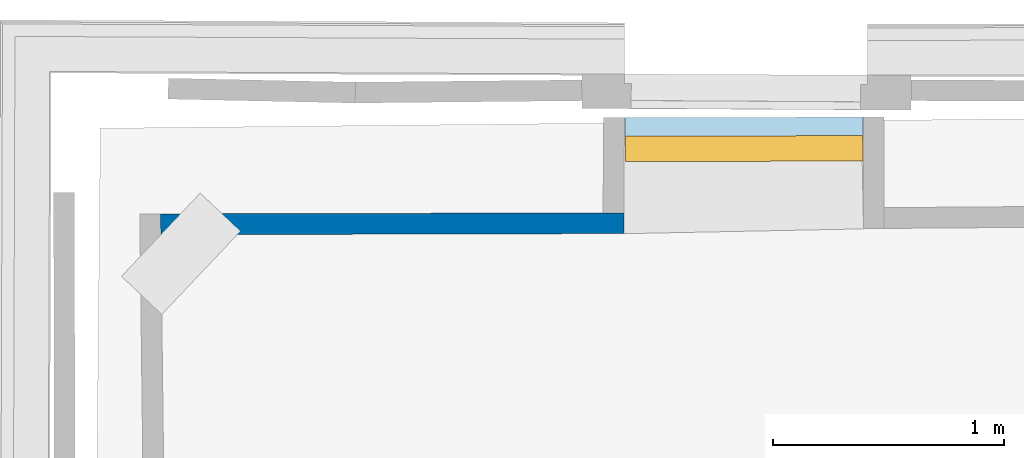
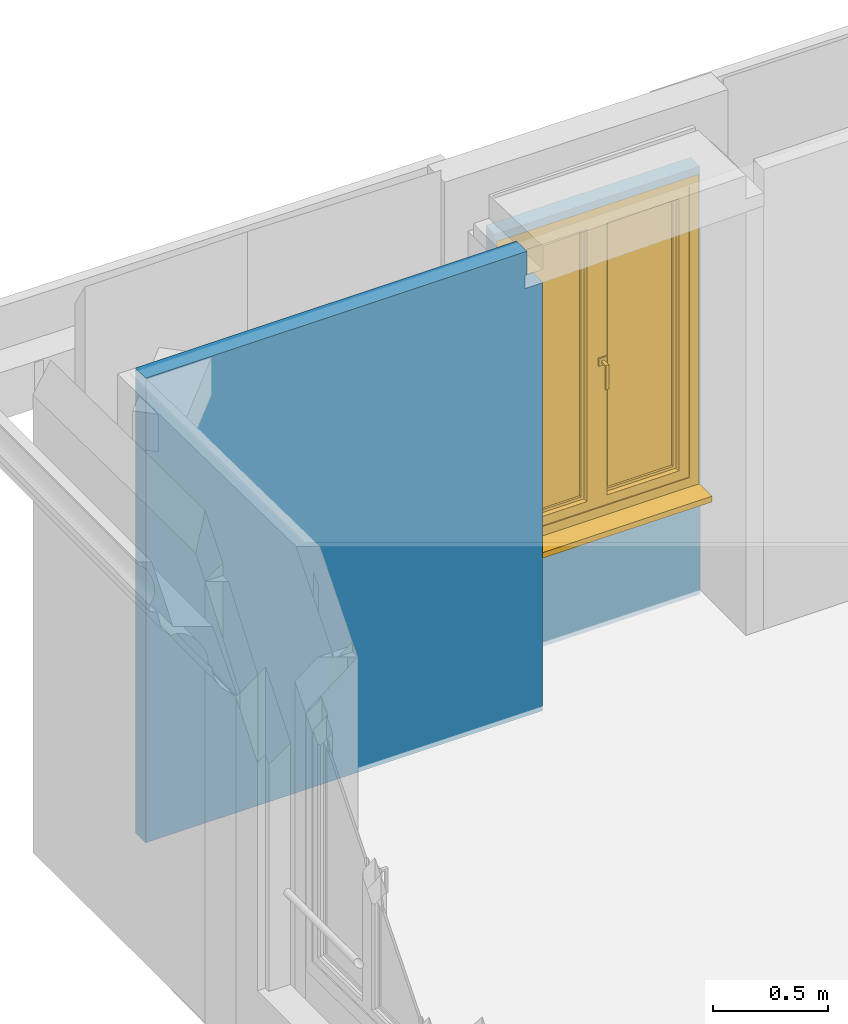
# One storey, part 57 of 72: 1 wall, 1 window, 1 opening, plus 1 element that does not belong to this part.
"""IFC2X3 building model written with IfcOpenShell, lengths in centimetres."""

from ifc_helpers import new_model, entity, si_unit, converted_unit, direction, frame, origin, origin_with_axes, place, context, subcontext, project, spatial, polyline, outline, extrude, faceted_brep, shape, material, material_list, layer, layer_set, layer_usage, type_object, element, fill, save


model = new_model("IFC2X3")

# Units and contexts
model_context = context("Model", 3, precision=0.0001, world=origin(), true_north=direction((0.225632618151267, 0.974212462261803, 0.0)))
body_context = subcontext(model_context, "Body", "Model", "MODEL_VIEW")
footprint_context = subcontext(model_context, "FootPrint", "Model", "MODEL_VIEW")
profile_context = subcontext(model_context, "Profile", "Model", "MODEL_VIEW")
ifc_project = project(units=[si_unit("LENGTHUNIT", "METRE", prefix="CENTI"), si_unit("AREAUNIT", "SQUARE_METRE", prefix="CENTI"), si_unit("VOLUMEUNIT", "CUBIC_METRE", prefix="CENTI"), converted_unit("PLANEANGLEUNIT", "DEGREE", entity("IfcRatioMeasure", 0.0174532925), si_unit("PLANEANGLEUNIT", "RADIAN"), dimensions=[0, 0, 0, 0, 0, 0, 0])], contexts=[model_context])

# Site, building, storey
site_placement = place(None, origin_with_axes())
site = spatial("IfcSite", under=ifc_project, at=site_placement, Name="Default Site", CompositionType="ELEMENT")
building_placement = place(site_placement, origin_with_axes())
building = spatial("IfcBuilding", under=site, at=building_placement, Name="Default Building", CompositionType="ELEMENT")
storey_placement = place(building_placement, frame((0.0, 0.0, 853.910374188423), z_axis=(0.0, 0.0, 1.0), x_axis=(1.0, 0.0, 0.0)))
storey = spatial("IfcBuildingStorey", under=building, at=storey_placement, Name="Niveau 2", CompositionType="ELEMENT", Elevation=853.910374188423)

# Wall
ifc_material_1 = material(Name="<aucun>")
ifc_layer_1 = layer(ifc_material_1, 9.0)
ifc_layer_set_1 = layer_set([ifc_layer_1], Name="default")
ifc_layer_usage_1 = layer_usage(ifc_layer_set_1, "AXIS2", "POSITIVE", -4.5)
wall_type_1 = type_object("IfcWallType", Name="default 90", PredefinedType="NOTDEFINED", material=ifc_layer_set_1)
wall_1_placement = place(storey_placement, frame((-1210.83799431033, 698.441416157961, 1.4210854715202e-12), z_axis=(0.0, 0.0, 1.0), x_axis=(0.999997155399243, 0.00238520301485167, 0.0)))
element("IfcWall", 1, at=wall_1_placement, inside=storey, type_object=wall_type_1, material=ifc_layer_usage_1, Name="Enveloppe 172689", context=body_context, shape_type="Brep", body=[
    faceted_brep([(191.288171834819, 4.49999100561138, 224.999976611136), (200.288403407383, 4.49999100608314, 224.999976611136), (200.288403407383, 4.49999100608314, -2.33888638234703e-05), (191.288171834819, 4.49999100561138, -2.33888638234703e-05), (187.999893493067, 4.49999100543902, -2.33888638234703e-05), (187.999893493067, 4.49999100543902, 224.999976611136), (191.188226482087, 4.49999100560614, 224.999976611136), (187.999893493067, 4.50001408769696, -2.33888638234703e-05), (181.496102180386, 4.50001408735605, -2.33888638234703e-05), (-0.0886771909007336, 4.50001407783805, -2.33888638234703e-05), (-0.0886771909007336, 4.50001407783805, 208.999991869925), (-0.0886771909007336, 4.50001407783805, 224.999976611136), (187.999893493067, 4.50001408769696, 224.999976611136), (191.188226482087, 4.49999097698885, 224.999976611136), (187.999893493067, 4.49999097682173, 224.999976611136), (-0.0886771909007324, 4.49999096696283, 224.999976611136), (-0.0886771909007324, 4.49999096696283, 236.999965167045), (191.188226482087, 4.49999097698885, 236.999965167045), (191.188226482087, 4.49999097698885, 235.000014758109), (191.188226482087, 4.49999097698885, 234.007525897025), (191.188226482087, 4.49999097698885, 228.000045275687), (200.288403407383, 4.49998129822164, 224.999976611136), (191.288171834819, 4.49998129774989, 224.999976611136), (191.288171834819, 4.49998129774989, 228.000045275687), (200.288403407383, 4.49998129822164, 228.000045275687), (191.188226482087, 4.49999100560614, 228.000045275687), (191.288171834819, 4.49999100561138, 228.000045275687), (192.223061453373, 4.50000223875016, 235.000014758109), (191.288171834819, 4.50000223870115, 235.000014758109), (191.288171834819, 4.50000223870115, 236.999965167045), (192.223061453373, 4.50000223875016, 236.999965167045), (191.288171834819, 4.49999100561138, 235.000014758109), (191.188226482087, 4.49999100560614, 235.000014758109), (191.188226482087, 4.49999100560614, 236.999965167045), (191.288171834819, 4.49999100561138, 236.999965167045), (191.188226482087, 4.50000223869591, 236.999965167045), (-0.088677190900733, 4.50000222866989, 236.999965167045), (-0.088677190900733, 4.50000222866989, 247.500014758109), (192.223061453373, 4.50000223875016, 247.500014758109), (3.72506813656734, -4.49999471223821, -2.33888638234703e-05), (200.223067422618, -4.49999470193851, -2.33888638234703e-05), (200.223067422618, -4.49999470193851, 224.999976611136), (191.188217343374, -4.49999470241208, 224.999976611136), (3.72506813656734, -4.49999471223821, 224.999976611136), (5.69819622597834e-06, -4.49997885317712, -2.33888638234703e-05), (3.72506813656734, -4.49997885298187, -2.33888638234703e-05), (3.72506813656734, -4.49997885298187, 224.999976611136), (5.69819622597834e-06, -4.49997885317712, 224.999976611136), (5.69819622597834e-06, -4.49997885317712, 208.999991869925), (191.188217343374, -4.49997884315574, 224.999976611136), (191.188217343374, -4.49997884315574, 228.000045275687), (191.188217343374, -4.49997884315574, 234.007525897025), (191.188217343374, -4.49997884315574, 235.000014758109), (191.188217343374, -4.49997884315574, 236.999965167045), (5.69819622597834e-06, -4.49997885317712, 236.999965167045), (191.188217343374, -4.50000217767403, 224.999976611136), (200.223067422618, -4.50000217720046, 224.999976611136), (200.223067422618, -4.50000217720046, 228.000045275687), (191.188217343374, -4.50000217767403, 228.000045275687), (191.188217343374, -4.50000217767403, 235.000014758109), (192.22305231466, -4.50000217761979, 235.000014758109), (192.22305231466, -4.50000217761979, 236.999965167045), (191.188217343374, -4.50000217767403, 236.999965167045), (192.22305231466, -4.4999788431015, 236.999965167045), (192.22305231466, -4.4999788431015, 247.500014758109), (5.69819622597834e-06, -4.49997885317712, 247.500014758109), (200.223067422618, -4.49999908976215, -2.33888638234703e-05), (3.72223600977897, -4.08804716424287, -2.33888638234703e-05), (6.02854872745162, -4.07313951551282, -2.33888638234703e-05), (180.877147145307, -2.94466111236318, -2.33888638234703e-05), (187.503397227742, -2.90186265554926, -2.33888638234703e-05), (200.288403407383, 4.49998129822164, -2.33888638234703e-05), (-0.0037452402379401, -4.11339692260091, -2.33888638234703e-05), (-0.0886771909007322, 4.49998743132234, -2.33888638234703e-05), (-0.00374216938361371, -4.11210946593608, 224.999976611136), (-0.0886790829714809, 4.49998741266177, 224.999976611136), (-0.0886790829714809, 4.49998741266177, 208.999991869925), (-0.00374216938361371, -4.11210946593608, 208.999991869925), (-0.0886790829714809, 4.49998741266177, -2.33888638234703e-05), (-0.00374216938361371, -4.11210946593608, -2.33888638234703e-05), (-0.00380696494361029, -4.11339753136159, 224.999976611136), (-0.00380696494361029, -4.11339753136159, 208.999991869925), (-0.00380696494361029, -4.11339753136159, -2.33888638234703e-05), (-0.0886771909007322, 4.49998743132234, 224.999976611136), (8.50818508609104e-05, -4.49997807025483, 224.999976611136), (8.50818508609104e-05, -4.49997807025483, 236.999965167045), (-0.0886771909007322, 4.49998743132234, 236.999965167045), (191.188226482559, -4.50000217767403, 235.000014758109), (191.188226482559, -4.50000217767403, 234.007525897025), (191.188226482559, -4.50000217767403, 228.000045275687), (200.223067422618, -4.49999908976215, 228.000045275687), (192.22305231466, -4.49999091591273, 235.000014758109), (192.223052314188, 4.50000223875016, 235.000014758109), (192.223052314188, 4.50000223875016, 236.999965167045), (192.22305231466, -4.49999091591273, 236.999965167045), (-0.0886771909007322, 4.49998743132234, 247.500014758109), (192.22305231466, -4.49999091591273, 247.500014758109), (8.50818508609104e-05, -4.49997807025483, 247.500014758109), (192.223052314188, 4.50000223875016, 247.500014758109), (200.288454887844, 4.49998092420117, -2.33888638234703e-05), (200.288454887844, 4.49998092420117, 224.999976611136), (200.223067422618, -4.49999908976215, 224.999976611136), (200.288454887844, 4.49998092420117, 228.000045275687)], [[[0, 1, 2, 3]], [[3, 4, 5, 6, 0]], [[7, 8, 9, 10, 11, 12]], [[13, 14, 15, 16, 17, 18, 19, 20]], [[21, 22, 23, 24]], [[0, 6, 25, 26]], [[27, 28, 29, 30]], [[31, 32, 33, 34]], [[30, 29, 35, 36, 37, 38]], [[39, 40, 41, 42, 43]], [[44, 45, 46, 47, 48]], [[47, 46, 49, 50, 51, 52, 53, 54]], [[55, 56, 57, 58]], [[59, 60, 61, 62]], [[54, 53, 63, 64, 65]], [[66, 39, 67, 68, 69, 70, 7, 3, 71]], [[70, 67, 72, 73, 7]], [[74, 75, 76, 77]], [[77, 76, 78, 79]], [[67, 39, 44, 72]], [[47, 80, 81, 48]], [[48, 81, 82, 44]], [[83, 84, 85, 86]], [[18, 87, 88, 19]], [[19, 88, 89, 20]], [[58, 90, 24, 26, 20]], [[59, 18, 31, 27, 91]], [[91, 92, 93, 94]], [[38, 95, 65, 96]], [[86, 85, 97, 95]], [[94, 93, 98, 96]], [[66, 99, 100, 101]], [[101, 100, 102, 90]]]),
])

# Wall, opening, window
ifc_layer_2 = layer(ifc_material_1, 8.0)
ifc_layer_set_2 = layer_set([ifc_layer_2], Name="default")
ifc_layer_usage_2 = layer_usage(ifc_layer_set_2, "AXIS2", "POSITIVE", -4.0)
wall_type_2 = type_object("IfcWallType", Name="default 80", PredefinedType="NOTDEFINED", material=ifc_layer_set_2)
wall_2_placement = place(storey_placement, frame((-1010.4089299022, 740.553588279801, 1.4210854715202e-12), z_axis=(0.0, 0.0, 1.0), x_axis=(0.999997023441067, 0.00243989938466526, 0.0)))
wall_2 = element("IfcWallStandardCase", 2, at=wall_2_placement, inside=storey, type_object=wall_type_2, material=ifc_layer_usage_2, Name="Enveloppe 172745", context=body_context, shape_type="SweptSolid", body=[
    extrude(outline(polyline([(-7.54139151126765e-07, -4.0), (103.400349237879, -4.00000000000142), (103.430184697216, 3.99999999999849), (0.0585591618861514, 4.00000000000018), (-7.54139151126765e-07, -4.0)])), frame((0.0, 0.0, -5.32907051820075e-13), z_axis=(0.0, 0.0, 1.0), x_axis=(1.0, 0.0, 0.0)), (0.0, 0.0, 1.0), 228.0),
])
opening_placement = place(wall_2_placement, frame((0.464590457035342, 1.13686837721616e-13, 58.9999999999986), z_axis=(0.0, 0.0, 1.0), x_axis=(-1.0, 1.44970840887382e-14, 0.0)))
cartesian_point_1 = entity("IfcCartesianPoint", [0.0, 0.0, 165.0])
cartesian_point_2 = entity("IfcCartesianPoint", [-102.647776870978, -4.0])
opening = element("IfcOpeningElement", 3, at=opening_placement, cuts=wall_2, Name="4294966524_11", ObjectType="Opening", shapes=[
    shape(body_context, "Body", "SweptSolid", [extrude(outline(polyline([(0.0, 165.0), (0.0, -2.99999999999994), (102.647776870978, -2.99999999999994), (102.647776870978, 165.0), (0.0, 165.0)])), frame((0.0, -14.0, 0.0), z_axis=(0.0, 1.0, 0.0), x_axis=(-1.0, 0.0, 0.0)), (0.0, 0.0, 1.0), 28.0)]),
    shape(profile_context, "Profile", "GeometricCurveSet", [entity("IfcGeometricCurveSet", [entity("IfcPolyline", [cartesian_point_1, entity("IfcCartesianPoint", [0.0, 0.0, 0.0]), entity("IfcCartesianPoint", [-102.647776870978, 0.0, 0.0]), entity("IfcCartesianPoint", [-102.647776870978, 0.0, 165.0]), cartesian_point_1])])]),
    shape(footprint_context, "FootPrint", "GeometricCurveSet", [entity("IfcGeometricCurveSet", [entity("IfcPolyline", [cartesian_point_2, entity("IfcCartesianPoint", [0.0, -3.99999999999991]), entity("IfcCartesianPoint", [-1.77635683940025e-13, 4.0]), entity("IfcCartesianPoint", [-102.647776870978, 4.0]), cartesian_point_2])])]),
])
ifc_material_2 = material(Name="Transparent")
ifc_material_3 = material(Name="Bleu france")
ifc_material_4 = material(Name="Brèche oniciata")
ifc_material_5 = material(Name="Aluminium satiné")
ifc_material_list = material_list([ifc_material_2, ifc_material_3, ifc_material_4, ifc_material_5])
window_style = type_object("IfcWindowStyle", Name="FN[R] 2VB[1V] MM", ConstructionType="NOTDEFINED", OperationType="DOUBLE_PANEL_VERTICAL", ParameterTakesPrecedence=True, Sizeable=False, material=ifc_material_list)
window_placement = place(opening_placement, frame((-102.647776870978, -4.0, -1.4210854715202e-14), z_axis=(0.0, 0.0, 1.0), x_axis=(1.0, 0.0, 0.0)))
window = element("IfcWindow", 4, at=window_placement, inside=storey, type_object=window_style, material=ifc_material_list, Name="Fenêtre 173266", OverallHeight=165.0, OverallWidth=102.647776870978, context=body_context, shape_type="Brep", body=[
    faceted_brep([(4.20870685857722e-05, 1.48088427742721e-05, -8.13007332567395e-06), (102.647747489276, -3.88960863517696e-07, -8.13007332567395e-06), (102.647811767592, 8.00001563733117, -8.13007332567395e-06), (102.647757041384, 19.0000141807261, -8.13007332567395e-06), (-4.38443146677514e-05, 18.9999819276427, -8.13007332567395e-06), (1.08818936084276e-05, 7.99998338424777, -8.13007332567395e-06), (1.08818936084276e-05, 7.99998338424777, -2.99998142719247), (-4.38443146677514e-05, 18.9999819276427, -2.99998142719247), (102.647757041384, 19.0000141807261, -2.99998142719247), (102.647811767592, 8.00001563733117, -2.99998142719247), (102.647747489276, -3.88960863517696e-07, -2.99998142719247), (4.20870685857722e-05, 1.48088427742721e-05, -2.99998142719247), (1.08819553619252e-05, 18.9999819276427, -8.13007332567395e-06), (1.08819553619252e-05, 18.9999819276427, -2.99998142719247), (102.647757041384, 18.9999819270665, -8.13007332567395e-06), (102.647757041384, 18.9999819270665, -2.99998142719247), (102.647757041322, 8.00001563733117, -8.13007332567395e-06), (102.647757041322, 8.00001563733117, -2.99998142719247), (102.647811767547, -3.88960863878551e-07, -8.13007332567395e-06), (102.647811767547, -3.88960863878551e-07, -2.99998142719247), (4.20870685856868e-05, -3.88384603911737e-07, -8.13007332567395e-06), (4.20870685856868e-05, -3.88384603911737e-07, -2.99998142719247), (4.20871134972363e-05, 7.99998338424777, -8.13007332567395e-06), (4.20871134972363e-05, 7.99998338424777, -2.99998142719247)], [[[0, 1, 2, 3, 4, 5]], [[6, 7, 8, 9, 10, 11]], [[5, 12, 13, 6]], [[4, 14, 15, 7]], [[3, 16, 17, 8]], [[2, 18, 19, 9]], [[1, 20, 21, 10]], [[0, 22, 23, 11]]]),
    faceted_brep([(97.6477779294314, 8.94068818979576e-08, 160.000002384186), (97.6477779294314, 7.99999991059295, 160.000002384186), (97.6477779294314, 7.99999991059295, 5.00000007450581), (97.6477779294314, 8.94068818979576e-08, 5.00000007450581), (102.647779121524, 7.99999991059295, 164.999997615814), (102.647779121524, 7.99999991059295, 0.0), (102.647779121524, 8.94068818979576e-08, 164.999997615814), (102.647779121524, 8.94068818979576e-08, 1.49405478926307e-30), (102.647779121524, 7.99999991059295, 1.49405478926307e-30), (97.6477779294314, 8.94068819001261e-08, 160.000002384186), (97.6477779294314, 8.94068819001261e-08, 5.00000007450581), (102.647779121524, 8.94068818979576e-08, 0.0), (4.99999894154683, 7.99999991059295, 5.0000000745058), (4.99999894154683, 8.94068818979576e-08, 5.0000000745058), (-2.25054606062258e-06, 7.99999991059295, 0.0), (4.99999894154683, 7.99999991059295, 5.00000007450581), (-2.25054606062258e-06, 8.94068818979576e-08, 0.0), (4.99999894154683, 8.94068819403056e-08, 5.00000007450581), (-2.25054606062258e-06, 8.9406881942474e-08, 0.0), (4.99999894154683, 8.94068818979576e-08, 5.00000007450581), (4.99999894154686, 7.99999991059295, 160.000002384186), (4.99999894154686, 8.94068818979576e-08, 160.000002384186), (-2.25054606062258e-06, 7.99999991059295, 164.999997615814), (4.99999894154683, 7.99999991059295, 160.000002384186), (-2.25054606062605e-06, 8.94068818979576e-08, 0.0), (-2.25054606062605e-06, 8.94068818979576e-08, 164.999997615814), (4.99999894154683, 8.94068818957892e-08, 5.00000007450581), (4.99999894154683, 8.94068818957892e-08, 160.000002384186), (-2.25054606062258e-06, 8.94068818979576e-08, 164.999997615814), (4.99999894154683, 8.94068818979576e-08, 160.000002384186), (97.6477779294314, 8.94068818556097e-08, 160.000002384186), (102.647779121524, 8.94068818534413e-08, 164.999997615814)], [[[0, 1, 2, 3]], [[1, 4, 5, 2]], [[4, 6, 7, 8]], [[6, 9, 10, 11]], [[3, 2, 12, 13]], [[2, 5, 14, 15]], [[5, 11, 16, 14]], [[11, 10, 17, 18]], [[19, 15, 20, 21]], [[15, 14, 22, 23]], [[14, 24, 25, 22]], [[16, 26, 27, 28]], [[29, 23, 1, 0]], [[23, 22, 4, 1]], [[22, 28, 6, 4]], [[28, 27, 30, 31]]]),
    faceted_brep([(93.6477757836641, 0.499999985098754, 155.999994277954), (92.6477762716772, 1.49999949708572, 154.999995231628), (92.6477762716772, 1.49999949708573, 10.0000001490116), (93.6477757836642, 0.499999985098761, 9.00000035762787), (92.6477767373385, 1.49999996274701, 154.999995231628), (92.6477767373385, 7.50000001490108, 154.999995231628), (92.6477767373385, 7.50000001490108, 10.0000001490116), (92.6477767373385, 1.49999996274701, 10.0000001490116), (97.6477779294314, 7.50000001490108, 160.000002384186), (97.6477779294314, 7.50000001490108, 5.00000007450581), (97.6477779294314, 0.499999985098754, 160.000002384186), (97.6477779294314, 0.499999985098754, 5.00000007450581), (93.6477757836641, 0.499999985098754, 9.00000035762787), (92.6477767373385, 1.49999986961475, 10.0000002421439), (56.3238885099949, 1.49999986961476, 10.0000002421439), (55.3238883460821, 0.499999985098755, 9.00000035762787), (56.3238885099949, 7.50000001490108, 10.0000001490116), (56.3238885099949, 1.49999996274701, 10.0000001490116), (51.3238884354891, 7.50000001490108, 5.00000007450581), (51.3238884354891, 0.499999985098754, 5.00000007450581), (55.3238883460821, 0.499999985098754, 9.00000035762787), (56.3238884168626, 1.50000005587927, 10.0000001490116), (56.3238884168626, 1.50000005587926, 154.999995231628), (55.3238883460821, 0.499999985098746, 155.999994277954), (56.3238885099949, 7.50000001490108, 154.999995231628), (56.3238885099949, 1.49999996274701, 154.999995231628), (51.3238884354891, 7.50000001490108, 160.000002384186), (51.3238884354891, 0.499999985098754, 160.000002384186), (55.3238883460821, 0.499999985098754, 155.999994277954), (56.3238885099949, 1.49999949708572, 154.999994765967), (92.6477767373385, 1.49999949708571, 154.999994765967), (93.6477757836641, 0.499999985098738, 155.999994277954)], [[[0, 1, 2, 3]], [[4, 5, 6, 7]], [[5, 8, 9, 6]], [[8, 10, 11, 9]], [[10, 0, 12, 11]], [[12, 13, 14, 15]], [[7, 6, 16, 17]], [[6, 9, 18, 16]], [[9, 11, 19, 18]], [[11, 12, 20, 19]], [[20, 21, 22, 23]], [[17, 16, 24, 25]], [[16, 18, 26, 24]], [[18, 19, 27, 26]], [[19, 20, 28, 27]], [[28, 29, 30, 31]], [[25, 24, 5, 4]], [[24, 26, 8, 5]], [[26, 27, 10, 8]], [[27, 28, 0, 10]]]),
    faceted_brep([(91.1477781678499, 3.00000002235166, 153.49999666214), (90.6477769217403, 3.50000126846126, 152.999997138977), (90.6477769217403, 3.50000126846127, 11.9999997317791), (91.1477781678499, 3.00000002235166, 11.5000002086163), (90.6477756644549, 3.50000001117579, 152.999997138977), (90.6477756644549, 4.49999998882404, 152.999997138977), (90.6477756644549, 4.49999998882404, 11.9999997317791), (90.6477756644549, 3.50000001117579, 11.9999997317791), (91.1477769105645, 5.00000123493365, 153.49999666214), (91.1477769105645, 5.00000123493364, 11.5000002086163), (91.1477781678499, 4.99999997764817, 153.49999666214), (92.6477767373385, 4.99999997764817, 154.999995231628), (92.6477767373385, 4.99999997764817, 10.0000001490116), (91.1477781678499, 4.99999997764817, 11.5000002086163), (92.6477767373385, 3.00000002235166, 154.999995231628), (92.6477767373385, 3.00000002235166, 10.0000001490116), (90.6477756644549, 3.49999977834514, 11.9999999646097), (58.3238884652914, 3.49999977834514, 11.9999999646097), (57.8238881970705, 3.00000002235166, 11.5000002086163), (58.3238884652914, 4.49999998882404, 11.9999997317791), (58.3238884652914, 3.50000001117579, 11.9999997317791), (91.1477781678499, 4.99999974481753, 11.4999999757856), (57.8238881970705, 4.99999974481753, 11.4999999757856), (56.3238885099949, 4.99999997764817, 10.0000001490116), (57.8238881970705, 4.99999997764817, 11.5000002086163), (56.3238885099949, 3.00000002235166, 10.0000001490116), (58.323888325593, 3.50000015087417, 11.9999997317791), (58.323888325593, 3.50000015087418, 152.999997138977), (57.8238881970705, 3.00000002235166, 153.49999666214), (58.3238884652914, 4.49999998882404, 152.999997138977), (58.3238884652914, 3.50000001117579, 152.999997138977), (57.8238883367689, 5.00000011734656, 11.5000002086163), (57.8238883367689, 5.00000011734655, 153.49999666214), (58.3238884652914, 4.49999998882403, 152.999997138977), (56.3238885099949, 4.99999997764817, 154.999995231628), (57.8238881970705, 4.99999997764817, 153.49999666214), (56.3238885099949, 3.00000002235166, 154.999995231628), (58.3238884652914, 3.49999977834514, 152.999996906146), (90.6477756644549, 3.49999977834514, 152.999996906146), (57.8238881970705, 4.99999974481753, 153.499996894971), (91.1477781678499, 4.99999974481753, 153.499996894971)], [[[0, 1, 2, 3]], [[4, 5, 6, 7]], [[5, 8, 9, 6]], [[10, 11, 12, 13]], [[11, 14, 15, 12]], [[14, 0, 3, 15]], [[3, 16, 17, 18]], [[7, 6, 19, 20]], [[6, 21, 22, 19]], [[13, 12, 23, 24]], [[12, 15, 25, 23]], [[15, 3, 18, 25]], [[18, 26, 27, 28]], [[20, 19, 29, 30]], [[19, 31, 32, 33]], [[24, 23, 34, 35]], [[23, 25, 36, 34]], [[25, 18, 28, 36]], [[28, 37, 38, 0]], [[30, 29, 5, 4]], [[29, 39, 40, 5]], [[35, 34, 11, 10]], [[34, 36, 14, 11]], [[36, 28, 0, 14]]]),
    faceted_brep([(58.3238884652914, 3.50000001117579, 152.999997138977), (58.3238884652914, 3.50000001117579, 11.9999997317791), (90.6477756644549, 3.50000001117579, 11.9999997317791), (90.6477756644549, 3.50000001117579, 152.999997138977), (90.6477756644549, 4.49999998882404, 152.999997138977), (90.6477756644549, 4.49999998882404, 11.9999997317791), (58.3238884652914, 4.49999998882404, 11.9999997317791), (58.3238884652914, 4.49999998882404, 152.999997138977)], [[[0, 1, 2, 3]], [[4, 5, 6, 7]], [[3, 2, 5, 4]], [[2, 1, 6, 5]], [[1, 0, 7, 6]], [[0, 3, 4, 7]]]),
    faceted_brep([(47.3238885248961, 0.499999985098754, 155.999994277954), (46.3238884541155, 1.50000005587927, 154.999995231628), (46.3238884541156, 1.50000005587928, 10.0000001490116), (47.3238885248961, 0.499999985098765, 9.00000035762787), (46.3238883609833, 1.49999996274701, 154.999995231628), (46.3238883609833, 7.50000001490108, 154.999995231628), (46.3238883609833, 7.50000001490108, 10.0000001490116), (46.3238883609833, 1.49999996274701, 10.0000001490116), (51.3238884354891, 7.50000001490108, 160.000002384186), (51.3238884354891, 7.50000001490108, 5.00000007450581), (51.3238884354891, 0.499999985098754, 160.000002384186), (51.3238884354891, 0.499999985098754, 5.00000007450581), (47.3238885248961, 0.499999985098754, 9.00000035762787), (46.3238883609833, 1.49999986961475, 10.0000002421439), (10.0000001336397, 1.49999986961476, 10.0000002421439), (9.00000108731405, 0.499999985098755, 9.00000035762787), (10.0000001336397, 7.50000001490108, 10.0000001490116), (10.0000001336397, 1.49999996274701, 10.0000001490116), (4.99999894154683, 7.50000001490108, 5.00000007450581), (4.99999894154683, 0.499999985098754, 5.00000007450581), (9.00000108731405, 0.499999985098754, 9.00000035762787), (10.000000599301, 1.49999949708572, 10.0000001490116), (10.000000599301, 1.49999949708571, 154.999995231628), (9.00000108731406, 0.499999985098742, 155.999994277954), (10.0000001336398, 7.50000001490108, 154.999995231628), (10.0000001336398, 1.49999996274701, 154.999995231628), (4.99999894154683, 7.50000001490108, 160.000002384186), (10.0000001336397, 7.50000001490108, 154.999995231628), (4.99999894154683, 0.499999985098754, 160.000002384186), (9.00000108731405, 0.499999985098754, 155.999994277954), (10.0000001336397, 1.49999949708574, 154.999994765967), (46.3238883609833, 1.49999949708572, 154.999994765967), (10.0000001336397, 1.49999996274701, 154.999995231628)], [[[0, 1, 2, 3]], [[4, 5, 6, 7]], [[5, 8, 9, 6]], [[8, 10, 11, 9]], [[10, 0, 12, 11]], [[12, 13, 14, 15]], [[7, 6, 16, 17]], [[6, 9, 18, 16]], [[9, 11, 19, 18]], [[11, 12, 20, 19]], [[20, 21, 22, 23]], [[17, 16, 24, 25]], [[16, 18, 26, 27]], [[18, 19, 28, 26]], [[19, 20, 29, 28]], [[29, 30, 31, 0]], [[32, 27, 5, 4]], [[27, 26, 8, 5]], [[26, 28, 10, 8]], [[28, 29, 0, 10]]]),
    faceted_brep([(46.8238882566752, 7.50000001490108, 84.5000028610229), (46.8238882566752, 7.50000001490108, 80.5000007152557), (50.823888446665, 7.50000001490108, 80.5000007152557), (50.823888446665, 7.50000001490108, 84.5000028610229), (50.823888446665, 8.30000014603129, 84.5000028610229), (50.823888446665, 8.30000014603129, 80.5000007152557), (46.8238882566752, 8.30000014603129, 80.5000007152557), (46.8238882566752, 8.30000014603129, 84.5000028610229)], [[[0, 1, 2, 3]], [[4, 5, 6, 7]], [[3, 2, 5, 4]], [[2, 1, 6, 5]], [[1, 0, 7, 6]], [[0, 3, 4, 7]]]),
    faceted_brep([(48.0738885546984, 8.30000014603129, 82.9999983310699), (48.0738885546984, 8.30000014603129, 81.9999992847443), (49.5738884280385, 8.30000014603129, 81.9999992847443), (49.5738884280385, 8.30000014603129, 82.9999983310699), (49.5738884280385, 12.2999996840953, 82.9999983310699), (49.5738884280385, 11.3000002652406, 81.9999989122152), (48.0738885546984, 11.3000002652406, 81.9999989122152), (48.0738885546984, 12.2999996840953, 82.9999983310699), (49.5738884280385, 11.2999998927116, 81.9999992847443), (48.0738885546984, 11.2999998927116, 81.9999992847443)], [[[0, 1, 2, 3]], [[4, 5, 6, 7]], [[3, 2, 8, 4]], [[2, 1, 9, 8]], [[1, 0, 7, 9]], [[0, 3, 4, 7]]]),
    faceted_brep([(48.0738885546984, 12.2999996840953, 82.9999983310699), (48.0738885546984, 11.3000002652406, 81.9999989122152), (49.5738884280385, 11.3000002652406, 81.9999989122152), (49.5738884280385, 12.2999996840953, 82.9999983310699), (49.5738884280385, 12.2999996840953, 69.9999988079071), (49.5738884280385, 11.2999998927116, 69.9999988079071), (48.0738885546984, 11.2999998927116, 69.9999988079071), (48.0738885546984, 12.2999996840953, 69.9999988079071), (49.5738884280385, 11.2999998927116, 81.9999992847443), (48.0738885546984, 11.2999998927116, 81.9999992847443)], [[[0, 1, 2, 3]], [[4, 5, 6, 7]], [[3, 8, 5, 4]], [[8, 9, 6, 5]], [[9, 0, 7, 6]], [[0, 3, 4, 7]]]),
    faceted_brep([(44.8238886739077, 3.00000002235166, 153.49999666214), (44.3238885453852, 3.50000015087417, 152.999997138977), (44.3238885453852, 3.50000015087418, 11.9999997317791), (44.8238886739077, 3.00000002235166, 11.5000002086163), (44.3238884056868, 3.50000001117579, 152.999997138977), (44.3238884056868, 4.49999998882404, 152.999997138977), (44.3238884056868, 4.49999998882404, 11.9999997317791), (44.3238884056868, 3.50000001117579, 11.9999997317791), (44.8238885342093, 5.00000011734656, 153.49999666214), (44.8238885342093, 5.00000011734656, 11.5000002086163), (44.8238886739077, 4.99999997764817, 153.49999666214), (46.3238883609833, 4.99999997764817, 154.999995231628), (46.3238883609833, 4.99999997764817, 10.0000001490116), (44.8238886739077, 4.99999997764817, 11.5000002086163), (46.3238883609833, 3.00000002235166, 154.999995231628), (46.3238883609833, 3.00000002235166, 10.0000001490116), (44.3238884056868, 3.49999977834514, 11.9999999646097), (12.0000012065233, 3.49999977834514, 11.9999999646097), (11.4999987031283, 3.00000002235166, 11.5000002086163), (12.0000012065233, 4.49999998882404, 11.9999997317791), (12.0000012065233, 3.50000001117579, 11.9999997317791), (44.8238886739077, 4.99999974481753, 11.4999999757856), (11.4999987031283, 4.99999974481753, 11.4999999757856), (10.0000001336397, 4.99999997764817, 10.0000001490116), (11.4999987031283, 4.99999997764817, 11.5000002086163), (10.0000001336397, 3.00000002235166, 10.0000001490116), (11.9999999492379, 3.50000126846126, 11.9999997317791), (11.9999999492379, 3.50000126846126, 152.999997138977), (11.4999987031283, 3.00000002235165, 153.49999666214), (12.0000012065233, 4.49999998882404, 152.999997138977), (12.0000012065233, 3.50000001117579, 152.999997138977), (11.4999999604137, 5.00000123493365, 11.5000002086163), (11.4999999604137, 5.00000123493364, 153.49999666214), (12.0000012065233, 4.49999998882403, 152.999997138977), (10.0000001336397, 4.99999997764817, 154.999995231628), (11.4999987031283, 4.99999997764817, 153.49999666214), (10.0000001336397, 3.00000002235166, 154.999995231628), (11.4999987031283, 3.00000002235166, 153.49999666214), (12.0000012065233, 3.49999977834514, 152.999996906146), (44.3238884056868, 3.49999977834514, 152.999996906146), (11.4999987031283, 4.99999974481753, 153.499996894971), (44.8238886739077, 4.99999974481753, 153.499996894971)], [[[0, 1, 2, 3]], [[4, 5, 6, 7]], [[5, 8, 9, 6]], [[10, 11, 12, 13]], [[11, 14, 15, 12]], [[14, 0, 3, 15]], [[3, 16, 17, 18]], [[7, 6, 19, 20]], [[6, 21, 22, 19]], [[13, 12, 23, 24]], [[12, 15, 25, 23]], [[15, 3, 18, 25]], [[18, 26, 27, 28]], [[20, 19, 29, 30]], [[19, 31, 32, 33]], [[24, 23, 34, 35]], [[23, 25, 36, 34]], [[25, 18, 37, 36]], [[37, 38, 39, 0]], [[30, 29, 5, 4]], [[29, 40, 41, 5]], [[35, 34, 11, 10]], [[34, 36, 14, 11]], [[36, 37, 0, 14]]]),
    faceted_brep([(12.0000012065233, 3.50000001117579, 152.999997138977), (12.0000012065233, 3.50000001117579, 11.9999997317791), (44.3238884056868, 3.50000001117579, 11.9999997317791), (44.3238884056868, 3.50000001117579, 152.999997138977), (44.3238884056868, 4.49999998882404, 152.999997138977), (44.3238884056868, 4.49999998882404, 11.9999997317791), (12.0000012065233, 4.49999998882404, 11.9999997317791), (12.0000012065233, 4.49999998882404, 152.999997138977)], [[[0, 1, 2, 3]], [[4, 5, 6, 7]], [[3, 2, 5, 4]], [[2, 1, 6, 5]], [[1, 0, 7, 6]], [[0, 3, 4, 7]]]),
])
fill(opening, window)

save(model, "model.ifc")
